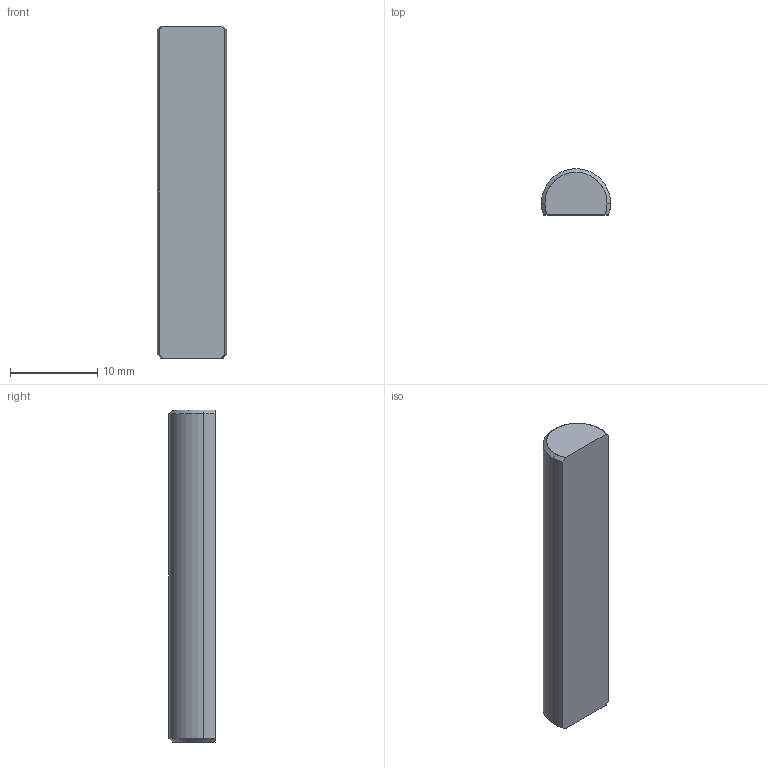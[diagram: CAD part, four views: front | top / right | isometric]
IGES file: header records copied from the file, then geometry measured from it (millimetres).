
Start section: SolidWorks IGES file using analytic representation for surfaces
Global section: file name: D:\Solid_parts\MECHeDESIGN\Bal-Tec\Catalog 105-A\Distribution\IGES\312-TC.IGS; native system: SolidWorks 2005 by SolidWorks Corporation; preprocessor: SolidWorks 2005 by SolidWorks Corporation; author: rvillegas; date: 061205.191134; units: inch
Bounding box: 7.94 x 5.28 x 38.1 mm (x, y, z)
Surface area: 924.7 mm2 (no closed solid volume)
Topology: 0 solids, 0 shells, 12 faces, 86 edges, 86 vertices
Faces by surface type: revolution 9, bspline 3
